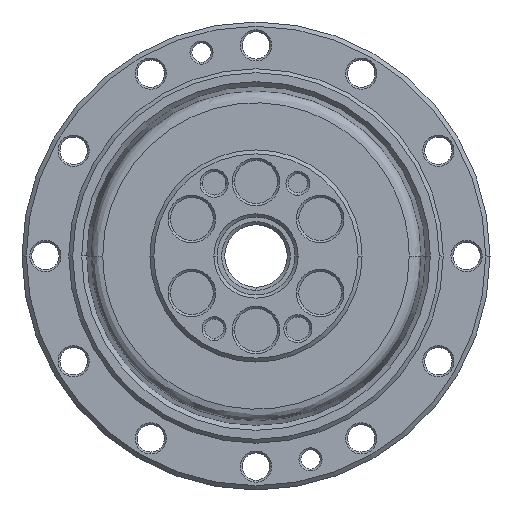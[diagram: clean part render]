
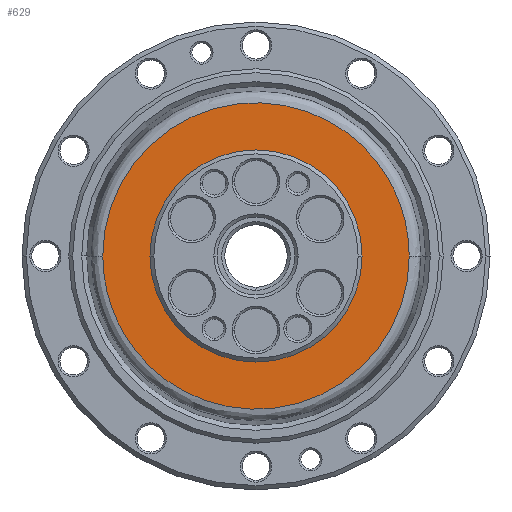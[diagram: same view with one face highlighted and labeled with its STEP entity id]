
A CAD part, left-side view. The second image highlights one B-rep face of the part: STEP entity #629.
In plain terms, the highlighted planar face has unit normal (-1, 0, 0).
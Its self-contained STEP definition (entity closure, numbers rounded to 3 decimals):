
#629=ADVANCED_FACE('NONE',(#1354,#1355),#1356,.F.);
#1354=FACE_OUTER_BOUND('',#3449,.T.);
#1355=FACE_BOUND('',#3450,.T.);
#1356=PLANE('',#3451);
#3449=EDGE_LOOP('',(#5194,#5195));
#3450=EDGE_LOOP('',(#5196,#5197));
#3451=AXIS2_PLACEMENT_3D('',#5198,#5199,#5200);
#5194=ORIENTED_EDGE('',*,*,#6014,.F.);
#5195=ORIENTED_EDGE('',*,*,#6646,.F.);
#5196=ORIENTED_EDGE('',*,*,#6229,.F.);
#5197=ORIENTED_EDGE('',*,*,#6639,.F.);
#5198=CARTESIAN_POINT('',(-23.8,0.0,-19.64));
#5199=DIRECTION('',(1.0,0.0,0.));
#5200=DIRECTION('',(0.,0.0,-1.0));
#6014=EDGE_CURVE('NONE',#6890,#6891,#6892,.T.);
#6229=EDGE_CURVE('NONE',#7245,#7246,#7247,.T.);
#6639=EDGE_CURVE('NONE',#7246,#7245,#7852,.T.);
#6646=EDGE_CURVE('NONE',#6891,#6890,#7859,.T.);
#6890=VERTEX_POINT('NONE',#8427);
#6891=VERTEX_POINT('NONE',#8428);
#6892=(B_SPLINE_CURVE(3,(#8430,#8431,#8432,#8433),.UNSPECIFIED.,.F.,.F.)B_SPLINE_CURVE_WITH_KNOTS((4,4),(0.75,1.25),.UNSPECIFIED.)RATIONAL_B_SPLINE_CURVE((1.0,0.333,0.333,1.0))BOUNDED_CURVE()REPRESENTATION_ITEM('')GEOMETRIC_REPRESENTATION_ITEM()CURVE());
#7245=VERTEX_POINT('NONE',#8986);
#7246=VERTEX_POINT('NONE',#8987);
#7247=CIRCLE('',#8988,13.6);
#7852=CIRCLE('',#9928,13.6);
#7859=(B_SPLINE_CURVE(3,(#9972,#9973,#9974,#9975),.UNSPECIFIED.,.F.,.F.)B_SPLINE_CURVE_WITH_KNOTS((4,4),(0.25,0.75),.UNSPECIFIED.)RATIONAL_B_SPLINE_CURVE((1.0,0.333,0.333,1.0))BOUNDED_CURVE()REPRESENTATION_ITEM('')GEOMETRIC_REPRESENTATION_ITEM()CURVE());
#8427=CARTESIAN_POINT('',(-23.8,-19.64,0.));
#8428=CARTESIAN_POINT('',(-23.8,19.64,0.));
#8430=CARTESIAN_POINT('',(-23.8,-19.64,0.));
#8431=CARTESIAN_POINT('',(-23.8,-19.64,-39.28));
#8432=CARTESIAN_POINT('',(-23.8,19.64,-39.28));
#8433=CARTESIAN_POINT('',(-23.8,19.64,0.));
#8986=CARTESIAN_POINT('',(-23.8,0.0,13.6));
#8987=CARTESIAN_POINT('',(-23.8,0.,-13.6));
#8988=AXIS2_PLACEMENT_3D('',#10569,#10570,#10571);
#9928=AXIS2_PLACEMENT_3D('',#11181,#11182,#11183);
#9972=CARTESIAN_POINT('',(-23.8,19.64,0.));
#9973=CARTESIAN_POINT('',(-23.8,19.64,39.28));
#9974=CARTESIAN_POINT('',(-23.8,-19.64,39.28));
#9975=CARTESIAN_POINT('',(-23.8,-19.64,0.));
#10569=CARTESIAN_POINT('',(-23.8,0.0,0.));
#10570=DIRECTION('',(-1.0,0.0,0.));
#10571=DIRECTION('',(0.,0.0,1.0));
#11181=CARTESIAN_POINT('',(-23.8,0.0,0.));
#11182=DIRECTION('',(-1.0,0.0,0.));
#11183=DIRECTION('',(0.,0.0,1.0));
